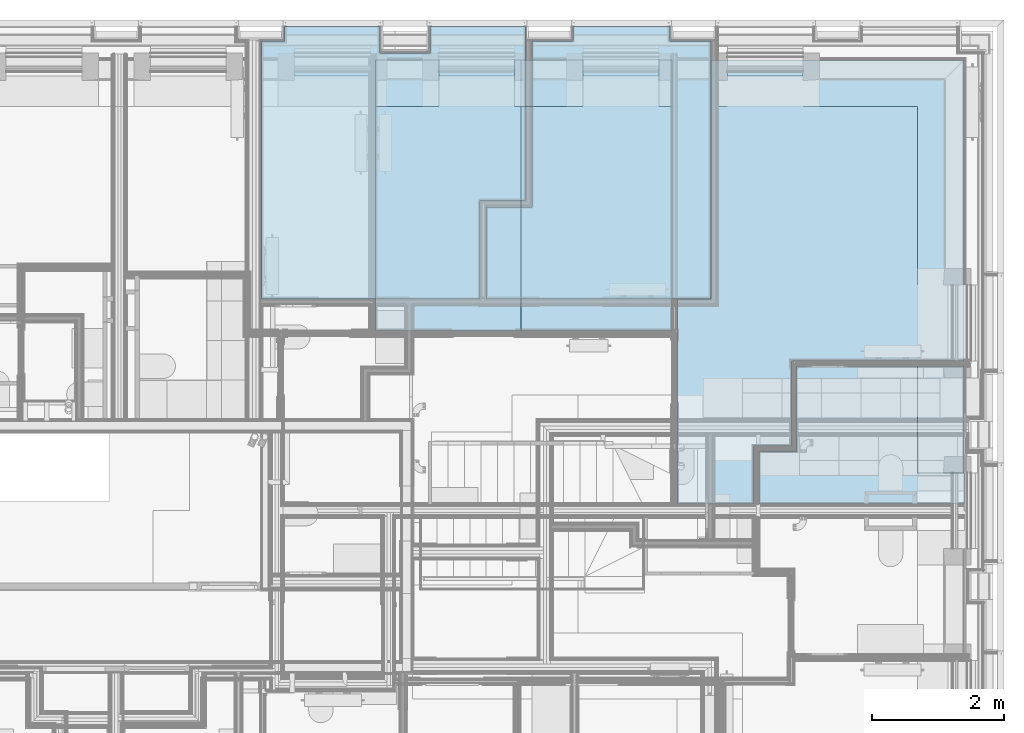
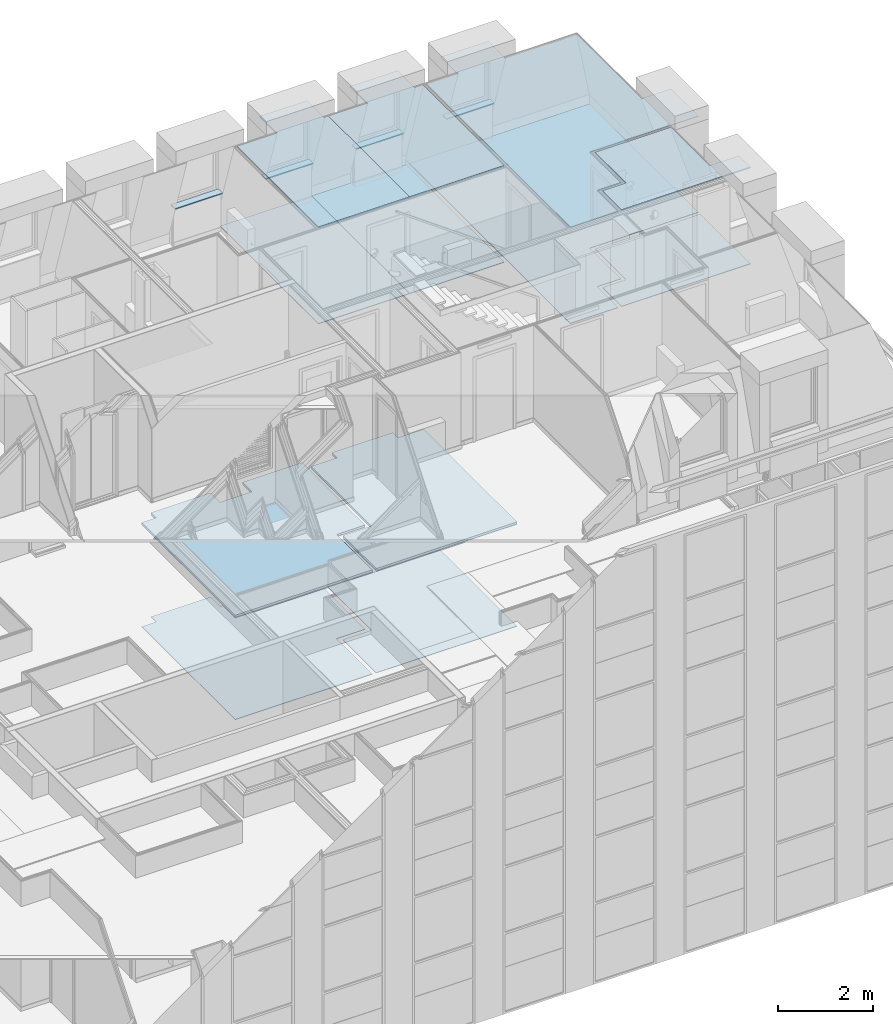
# One storey, part 80 of 169: 25 slabs.
"""IFC2X3 building model written with IfcOpenShell, lengths in metres."""

from ifc_helpers import new_model, entity, si_unit, converted_unit, derived_unit, money_unit, direction, frame, origin_with_axes, place, context, subcontext, project, spatial, faceted_brep, material, type_object, element, save


model = new_model("IFC2X3")

# Units and contexts
model_context = context("Model", 3, precision=1e-05, world=origin_with_axes(), true_north=direction((0.0, 1.0)))
body_context = subcontext(model_context, "Body", "Model", "MODEL_VIEW", scale=1.0)
ifc_project = project(units=[si_unit("LENGTHUNIT", "METRE"), si_unit("AREAUNIT", "SQUARE_METRE"), si_unit("VOLUMEUNIT", "CUBIC_METRE"), si_unit("ABSORBEDDOSEUNIT", "GRAY"), si_unit("AMOUNTOFSUBSTANCEUNIT", "MOLE"), si_unit("DOSEEQUIVALENTUNIT", "SIEVERT"), si_unit("ELECTRICCAPACITANCEUNIT", "FARAD"), si_unit("ELECTRICCHARGEUNIT", "COULOMB"), si_unit("ELECTRICCONDUCTANCEUNIT", "SIEMENS"), si_unit("ELECTRICCURRENTUNIT", "AMPERE"), si_unit("ELECTRICRESISTANCEUNIT", "OHM"), si_unit("ELECTRICVOLTAGEUNIT", "VOLT"), si_unit("ENERGYUNIT", "JOULE"), si_unit("FORCEUNIT", "NEWTON"), si_unit("FREQUENCYUNIT", "HERTZ"), si_unit("ILLUMINANCEUNIT", "LUX"), si_unit("INDUCTANCEUNIT", "HENRY"), si_unit("LUMINOUSFLUXUNIT", "LUMEN"), si_unit("LUMINOUSINTENSITYUNIT", "CANDELA"), si_unit("MAGNETICFLUXDENSITYUNIT", "TESLA"), si_unit("MAGNETICFLUXUNIT", "WEBER"), si_unit("MASSUNIT", "GRAM"), converted_unit("PLANEANGLEUNIT", "degree", entity("IfcReal", 0.0174532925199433), si_unit("PLANEANGLEUNIT", "RADIAN"), dimensions=[0, 0, 0, 0, 0, 0, 0]), si_unit("POWERUNIT", "WATT"), si_unit("PRESSUREUNIT", "PASCAL"), si_unit("RADIOACTIVITYUNIT", "BECQUEREL"), si_unit("SOLIDANGLEUNIT", "STERADIAN"), si_unit("THERMODYNAMICTEMPERATUREUNIT", "KELVIN"), si_unit("TIMEUNIT", "SECOND"), derived_unit("ACCELERATIONUNIT", [(si_unit("LENGTHUNIT", "METRE"), 1), (si_unit("TIMEUNIT", "SECOND"), -2)]), derived_unit("ANGULARVELOCITYUNIT", [(converted_unit("PLANEANGLEUNIT", "degree", entity("IfcReal", 0.0174532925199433), si_unit("PLANEANGLEUNIT", "RADIAN"), dimensions=[0, 0, 0, 0, 0, 0, 0]), 1), (si_unit("TIMEUNIT", "SECOND"), -1)]), derived_unit("CURVATUREUNIT", [(converted_unit("PLANEANGLEUNIT", "degree", entity("IfcReal", 0.0174532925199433), si_unit("PLANEANGLEUNIT", "RADIAN"), dimensions=[0, 0, 0, 0, 0, 0, 0]), 1), (si_unit("LENGTHUNIT", "METRE"), -1)]), derived_unit("DYNAMICVISCOSITYUNIT", [(si_unit("PRESSUREUNIT", "PASCAL"), 1), (si_unit("TIMEUNIT", "SECOND"), 1)]), derived_unit("HEATFLUXDENSITYUNIT", [(si_unit("POWERUNIT", "WATT"), 1), (si_unit("LENGTHUNIT", "METRE"), -2)]), derived_unit("HEATINGVALUEUNIT", [(si_unit("ENERGYUNIT", "JOULE"), 1), (si_unit("MASSUNIT", "GRAM"), -1)]), derived_unit("INTEGERCOUNTRATEUNIT", [(si_unit("TIMEUNIT", "SECOND"), -1)]), derived_unit("IONCONCENTRATIONUNIT", [(si_unit("MASSUNIT", "GRAM"), 1), (si_unit("VOLUMEUNIT", "CUBIC_METRE"), -1)]), derived_unit("ISOTHERMALMOISTURECAPACITYUNIT", [(si_unit("VOLUMEUNIT", "CUBIC_METRE"), 1), (si_unit("MASSUNIT", "GRAM"), -1)]), derived_unit("KINEMATICVISCOSITYUNIT", [(si_unit("AREAUNIT", "SQUARE_METRE"), 1), (si_unit("TIMEUNIT", "SECOND"), -1)]), derived_unit("LINEARFORCEUNIT", [(si_unit("FORCEUNIT", "NEWTON"), 1), (si_unit("LENGTHUNIT", "METRE"), -1)]), derived_unit("LINEARMOMENTUNIT", [(si_unit("FORCEUNIT", "NEWTON"), 1), (si_unit("LENGTHUNIT", "METRE"), -1)]), derived_unit("LINEARSTIFFNESSUNIT", [(si_unit("FORCEUNIT", "NEWTON"), 1), (si_unit("LENGTHUNIT", "METRE"), -1)]), derived_unit("LINEARVELOCITYUNIT", [(si_unit("LENGTHUNIT", "METRE"), 1), (si_unit("TIMEUNIT", "SECOND"), -1)]), derived_unit("LUMINOUSINTENSITYDISTRIBUTIONUNIT", [(si_unit("LUMINOUSINTENSITYUNIT", "CANDELA"), 1), (si_unit("LUMINOUSFLUXUNIT", "LUMEN"), -1)]), derived_unit("MASSDENSITYUNIT", [(si_unit("MASSUNIT", "GRAM"), 1), (si_unit("VOLUMEUNIT", "CUBIC_METRE"), -1)]), derived_unit("MASSFLOWRATEUNIT", [(si_unit("MASSUNIT", "GRAM"), 1), (si_unit("TIMEUNIT", "SECOND"), -1)]), derived_unit("MASSPERLENGTHUNIT", [(si_unit("MASSUNIT", "GRAM"), 1), (si_unit("LENGTHUNIT", "METRE"), -1)]), derived_unit("MODULUSOFELASTICITYUNIT", [(si_unit("FORCEUNIT", "NEWTON"), 1), (si_unit("AREAUNIT", "SQUARE_METRE"), -1)]), derived_unit("MODULUSOFLINEARSUBGRADEREACTIONUNIT", [(si_unit("FORCEUNIT", "NEWTON"), 1), (si_unit("LENGTHUNIT", "METRE"), -2)]), derived_unit("MODULUSOFROTATIONALSUBGRADEREACTIONUNIT", [(si_unit("FORCEUNIT", "NEWTON"), 1), (si_unit("LENGTHUNIT", "METRE"), 1)]), derived_unit("MODULUSOFSUBGRADEREACTIONUNIT", [(si_unit("FORCEUNIT", "NEWTON"), 1), (si_unit("VOLUMEUNIT", "CUBIC_METRE"), -1)]), derived_unit("MOISTUREDIFFUSIVITYUNIT", [(si_unit("VOLUMEUNIT", "CUBIC_METRE"), 1), (si_unit("TIMEUNIT", "SECOND"), -1)]), derived_unit("MOLECULARWEIGHTUNIT", [(si_unit("MASSUNIT", "GRAM"), 1), (si_unit("AMOUNTOFSUBSTANCEUNIT", "MOLE"), -1)]), derived_unit("PLANARFORCEUNIT", [(si_unit("FORCEUNIT", "NEWTON"), 1), (si_unit("LENGTHUNIT", "METRE"), -2)]), derived_unit("ROTATIONALFREQUENCYUNIT", [(si_unit("TIMEUNIT", "SECOND"), -1)]), derived_unit("ROTATIONALMASSUNIT", [(si_unit("MASSUNIT", "GRAM"), 1), (si_unit("LENGTHUNIT", "METRE"), 2)]), derived_unit("ROTATIONALSTIFFNESSUNIT", [(si_unit("FORCEUNIT", "NEWTON"), 1), (si_unit("LENGTHUNIT", "METRE"), 1), (converted_unit("PLANEANGLEUNIT", "degree", entity("IfcReal", 0.0174532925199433), si_unit("PLANEANGLEUNIT", "RADIAN"), dimensions=[0, 0, 0, 0, 0, 0, 0]), -1)]), derived_unit("SECTIONAREAINTEGRALUNIT", [(si_unit("LENGTHUNIT", "METRE"), 5)]), derived_unit("SECTIONMODULUSUNIT", [(si_unit("LENGTHUNIT", "METRE"), 3)]), derived_unit("SHEARMODULUSUNIT", [(si_unit("FORCEUNIT", "NEWTON"), 1), (si_unit("AREAUNIT", "SQUARE_METRE"), -1)]), derived_unit("SOUNDPOWERUNIT", [(si_unit("ENERGYUNIT", "JOULE"), 1), (si_unit("TIMEUNIT", "SECOND"), -1)]), derived_unit("SPECIFICHEATCAPACITYUNIT", [(si_unit("FORCEUNIT", "NEWTON"), 1), (si_unit("MASSUNIT", "GRAM"), -1), (si_unit("THERMODYNAMICTEMPERATUREUNIT", "KELVIN"), -1)]), derived_unit("TEMPERATUREGRADIENTUNIT", [(si_unit("THERMODYNAMICTEMPERATUREUNIT", "KELVIN"), 1), (si_unit("LENGTHUNIT", "METRE"), -1)]), derived_unit("THERMALADMITTANCEUNIT", [(si_unit("POWERUNIT", "WATT"), 1), (si_unit("AREAUNIT", "SQUARE_METRE"), -1), (si_unit("THERMODYNAMICTEMPERATUREUNIT", "KELVIN"), -1)]), derived_unit("THERMALCONDUCTANCEUNIT", [(si_unit("POWERUNIT", "WATT"), 1), (si_unit("LENGTHUNIT", "METRE"), -1), (si_unit("THERMODYNAMICTEMPERATUREUNIT", "KELVIN"), -1)]), derived_unit("THERMALEXPANSIONCOEFFICIENTUNIT", [(si_unit("THERMODYNAMICTEMPERATUREUNIT", "KELVIN"), -1)]), derived_unit("THERMALRESISTANCEUNIT", [(si_unit("AREAUNIT", "SQUARE_METRE"), 1), (si_unit("POWERUNIT", "WATT"), -1)]), derived_unit("THERMALTRANSMITTANCEUNIT", [(si_unit("POWERUNIT", "WATT"), 1), (si_unit("AREAUNIT", "SQUARE_METRE"), -1), (si_unit("THERMODYNAMICTEMPERATUREUNIT", "KELVIN"), -1)]), derived_unit("TORQUEUNIT", [(si_unit("FORCEUNIT", "NEWTON"), 1), (si_unit("LENGTHUNIT", "METRE"), 1)]), derived_unit("VAPORPERMEABILITYUNIT", [(si_unit("MASSUNIT", "GRAM"), 1), (si_unit("TIMEUNIT", "SECOND"), -1)]), derived_unit("VOLUMETRICFLOWRATEUNIT", [(si_unit("VOLUMEUNIT", "CUBIC_METRE"), 1), (si_unit("TIMEUNIT", "SECOND"), -1)]), derived_unit("WARPINGCONSTANTUNIT", [(si_unit("LENGTHUNIT", "METRE"), 6)]), derived_unit("WARPINGMOMENTUNIT", [(si_unit("FORCEUNIT", "NEWTON"), 1), (si_unit("LENGTHUNIT", "METRE"), 2)]), money_unit("GBP")], contexts=[model_context])

# Site, building, storey
site_placement = place(None, origin_with_axes())
site = spatial("IfcSite", under=ifc_project, at=site_placement, Name="Site", CompositionType="ELEMENT")
building_placement = place(site_placement, origin_with_axes())
building = spatial("IfcBuilding", under=site, at=building_placement, Name="Building01", CompositionType="ELEMENT")
storey_placement = place(building_placement, frame((0.0, 0.0, 5.15), z_axis=(0.0, 0.0, 1.0), x_axis=(1.0, 0.0, 0.0)))
storey = spatial("IfcBuildingStorey", under=building, at=storey_placement, Name="1F", CompositionType="ELEMENT", Elevation=5.15)

# Slabs
ifc_material_1 = material(Name="A_BSUK_Carpet-Pile")
slab_type_1 = type_object("IfcSlabType", Name="A-FloorsSlabs A_BSUK_Slabs", PredefinedType="FLOOR")
placement = place(storey_placement, frame((0.0, 0.0, -5.15), z_axis=(0.0, 0.0, 1.0), x_axis=(1.0, 0.0, 0.0)))
element("IfcSlab", 1, at=placement, inside=storey, type_object=slab_type_1, material=ifc_material_1, Name="A-FloorsSlabs A_BSUK_Slabs", ObjectType="CompoundSlabLeaf", context=body_context, shape_type="Brep", body=[
    faceted_brep([(15.708132, 10.665, 5.153), (15.708132, 10.665, 5.165), (15.708132, 14.582, 5.165), (15.708132, 14.582, 5.153), (19.025284, 10.665, 5.153), (19.025284, 10.665, 5.165), (19.025284, 12.159378, 5.153), (19.025284, 12.159378, 5.165), (19.715, 12.159378, 5.153), (19.715, 12.159378, 5.165), (19.715, 14.8, 5.153), (19.715, 14.8, 5.165), (18.268, 14.8, 5.153), (18.268, 14.8, 5.165), (18.268, 14.402, 5.153), (18.268, 14.402, 5.165), (17.502, 14.402, 5.153), (17.502, 14.402, 5.165), (17.502, 14.8, 5.153), (17.502, 14.8, 5.165), (16.055, 14.8, 5.153), (16.055, 14.8, 5.165), (16.055, 14.582, 5.153), (16.055, 14.582, 5.165)], [[[0, 1, 2, 3]], [[4, 5, 1, 0]], [[6, 7, 5, 4]], [[8, 9, 7, 6]], [[10, 11, 9, 8]], [[12, 13, 11, 10]], [[14, 15, 13, 12]], [[16, 17, 15, 14]], [[18, 19, 17, 16]], [[20, 21, 19, 18]], [[22, 23, 21, 20]], [[3, 2, 23, 22]], [[1, 5, 7, 9, 11, 13, 15, 17, 19, 21, 23, 2]], [[3, 22, 20, 18, 16, 14, 12, 10, 8, 6, 4, 0]]]),
])
element("IfcSlab", 2, at=placement, inside=storey, type_object=slab_type_1, material=ifc_material_1, Name="A-FloorsSlabs A_BSUK_Slabs", ObjectType="CompoundSlabLeaf", context=body_context, shape_type="Brep", body=[
    faceted_brep([(19.81, 12.064378, 5.153), (19.81, 12.064378, 5.165), (19.81, 14.582, 5.165), (19.81, 14.582, 5.153), (19.120284, 12.064378, 5.153), (19.120284, 12.064378, 5.165), (19.120284, 10.665, 5.153), (19.120284, 10.665, 5.165), (22.53, 10.665, 5.153), (22.53, 10.665, 5.165), (22.53, 14.582, 5.153), (22.53, 14.582, 5.165), (21.905, 14.582, 5.153), (21.905, 14.582, 5.165), (21.905, 14.8, 5.153), (21.905, 14.8, 5.165), (20.435, 14.8, 5.153), (20.435, 14.8, 5.165), (20.435, 14.582, 5.153), (20.435, 14.582, 5.165)], [[[0, 1, 2, 3]], [[4, 5, 1, 0]], [[6, 7, 5, 4]], [[8, 9, 7, 6]], [[10, 11, 9, 8]], [[12, 13, 11, 10]], [[14, 15, 13, 12]], [[16, 17, 15, 14]], [[18, 19, 17, 16]], [[3, 2, 19, 18]], [[1, 5, 7, 9, 11, 13, 15, 17, 19, 2]], [[3, 18, 16, 14, 12, 10, 8, 6, 4, 0]]]),
])
ifc_material_2 = material(Name="A_BSUK_CeilingSoffitFinishes_Suspended")
element("IfcSlab", 3, at=placement, inside=storey, type_object=slab_type_1, material=ifc_material_2, Name="A-FloorsSlabs A_BSUK_Slabs", ObjectType="CompoundSlabLeaf", context=body_context, shape_type="Brep", body=[
    faceted_brep([(15.708132, 10.665, 7.765), (15.708132, 10.665, 7.78), (15.708132, 14.582, 7.78), (15.708132, 14.582, 7.765), (19.025284, 10.665, 7.765), (19.025284, 10.665, 7.78), (19.025284, 12.159378, 7.765), (19.025284, 12.159378, 7.78), (19.715, 12.159378, 7.765), (19.715, 12.159378, 7.78), (19.715, 14.8, 7.765), (19.715, 14.8, 7.78), (18.268, 14.8, 7.765), (18.268, 14.8, 7.78), (18.268, 14.402, 7.765), (18.268, 14.402, 7.78), (17.502, 14.402, 7.765), (17.502, 14.402, 7.78), (17.502, 14.8, 7.765), (17.502, 14.8, 7.78), (16.055, 14.8, 7.765), (16.055, 14.8, 7.78), (16.055, 14.582, 7.765), (16.055, 14.582, 7.78)], [[[0, 1, 2, 3]], [[4, 5, 1, 0]], [[6, 7, 5, 4]], [[8, 9, 7, 6]], [[10, 11, 9, 8]], [[12, 13, 11, 10]], [[14, 15, 13, 12]], [[16, 17, 15, 14]], [[18, 19, 17, 16]], [[20, 21, 19, 18]], [[22, 23, 21, 20]], [[3, 2, 23, 22]], [[1, 5, 7, 9, 11, 13, 15, 17, 19, 21, 23, 2]], [[3, 22, 20, 18, 16, 14, 12, 10, 8, 6, 4, 0]]]),
])
element("IfcSlab", 4, at=placement, inside=storey, type_object=slab_type_1, material=ifc_material_2, Name="A-FloorsSlabs A_BSUK_Slabs", ObjectType="CompoundSlabLeaf", context=body_context, shape_type="Brep", body=[
    faceted_brep([(19.81, 12.064378, 7.765), (19.81, 12.064378, 7.78), (19.81, 14.582, 7.78), (19.81, 14.582, 7.765), (19.120284, 12.064378, 7.765), (19.120284, 12.064378, 7.78), (19.120284, 10.665, 7.765), (19.120284, 10.665, 7.78), (22.53, 10.665, 7.765), (22.53, 10.665, 7.78), (22.53, 14.582, 7.765), (22.53, 14.582, 7.78), (21.905, 14.582, 7.765), (21.905, 14.582, 7.78), (21.905, 14.8, 7.765), (21.905, 14.8, 7.78), (20.435, 14.8, 7.765), (20.435, 14.8, 7.78), (20.435, 14.582, 7.765), (20.435, 14.582, 7.78)], [[[0, 1, 2, 3]], [[4, 5, 1, 0]], [[6, 7, 5, 4]], [[8, 9, 7, 6]], [[10, 11, 9, 8]], [[12, 13, 11, 10]], [[14, 15, 13, 12]], [[16, 17, 15, 14]], [[18, 19, 17, 16]], [[3, 2, 19, 18]], [[1, 5, 7, 9, 11, 13, 15, 17, 19, 2]], [[3, 18, 16, 14, 12, 10, 8, 6, 4, 0]]]),
])
element("IfcSlab", 5, at=placement, inside=storey, type_object=slab_type_1, material=ifc_material_2, Name="A-FloorsSlabs A_BSUK_Slabs", ObjectType="CompoundSlabLeaf", context=body_context, shape_type="Brep", body=[
    faceted_brep([(17.439976, 10.179939, 17.423), (17.439976, 10.179939, 17.438), (17.439976, 13.587598, 17.438), (17.439976, 13.587598, 17.423), (19.649976, 10.179939, 17.423), (19.649976, 10.179939, 17.438), (19.649976, 13.587598, 17.423), (19.649976, 13.587598, 17.438), (19.549976, 13.587598, 17.423), (19.549976, 13.587598, 17.438), (19.549976, 14.300061, 17.423), (19.549976, 14.300061, 17.438), (18.400024, 14.300061, 17.423), (18.400024, 14.300061, 17.438), (18.400024, 13.587598, 17.423), (18.400024, 13.587598, 17.438)], [[[0, 1, 2, 3]], [[4, 5, 1, 0]], [[6, 7, 5, 4]], [[8, 9, 7, 6]], [[10, 11, 9, 8]], [[12, 13, 11, 10]], [[14, 15, 13, 12]], [[3, 2, 15, 14]], [[1, 5, 7, 9, 11, 13, 15, 2]], [[3, 14, 12, 10, 8, 6, 4, 0]]]),
])
element("IfcSlab", 6, at=placement, inside=storey, type_object=slab_type_1, material=ifc_material_2, Name="A-FloorsSlabs A_BSUK_Slabs", ObjectType="CompoundSlabLeaf", context=body_context, shape_type="Brep", body=[
    faceted_brep([(19.649976, 10.179939, 17.423), (19.649976, 10.179939, 17.438), (19.649976, 13.587598, 17.438), (19.649976, 13.587598, 17.423), (21.939976, 10.179939, 17.423), (21.939976, 10.179939, 17.438), (21.939976, 13.587598, 17.423), (21.939976, 13.587598, 17.438), (21.739976, 13.587598, 17.423), (21.739976, 13.587598, 17.438), (21.739976, 14.300061, 17.423), (21.739976, 14.300061, 17.438), (20.590024, 14.300061, 17.423), (20.590024, 14.300061, 17.438), (20.590024, 13.587598, 17.423), (20.590024, 13.587598, 17.438)], [[[0, 1, 2, 3]], [[4, 5, 1, 0]], [[6, 7, 5, 4]], [[8, 9, 7, 6]], [[10, 11, 9, 8]], [[12, 13, 11, 10]], [[14, 15, 13, 12]], [[3, 2, 15, 14]], [[1, 5, 7, 9, 11, 13, 15, 2]], [[3, 14, 12, 10, 8, 6, 4, 0]]]),
])
element("IfcSlab", 7, at=placement, inside=storey, type_object=slab_type_1, material=ifc_material_2, Name="A-FloorsSlabs A_BSUK_Slabs", ObjectType="CompoundSlabLeaf", context=body_context, shape_type="Brep", body=[
    faceted_brep([(22.019976, 7.549915, 17.423), (22.019976, 7.549915, 17.438), (22.019976, 13.587598, 17.438), (22.019976, 13.587598, 17.423), (23.178821, 7.549915, 17.423), (23.178821, 7.549915, 17.438), (23.178821, 8.429915, 17.423), (23.178821, 8.429915, 17.438), (23.75, 8.429915, 17.423), (23.75, 8.429915, 17.438), (23.75, 9.724915, 17.423), (23.75, 9.724915, 17.438), (26.380061, 9.724915, 17.423), (26.380061, 9.724915, 17.438), (26.380061, 10.874915, 17.423), (26.380061, 10.874915, 17.438), (25.667598, 10.874915, 17.423), (25.667598, 10.874915, 17.438), (25.667598, 13.587598, 17.423), (25.667598, 13.587598, 17.438), (23.930024, 13.587598, 17.423), (23.930024, 13.587598, 17.438), (23.930024, 14.300061, 17.423), (23.930024, 14.300061, 17.438), (22.780024, 14.300061, 17.423), (22.780024, 14.300061, 17.438), (22.780024, 13.587598, 17.423), (22.780024, 13.587598, 17.438)], [[[0, 1, 2, 3]], [[4, 5, 1, 0]], [[6, 7, 5, 4]], [[8, 9, 7, 6]], [[10, 11, 9, 8]], [[12, 13, 11, 10]], [[14, 15, 13, 12]], [[16, 17, 15, 14]], [[18, 19, 17, 16]], [[20, 21, 19, 18]], [[22, 23, 21, 20]], [[24, 25, 23, 22]], [[26, 27, 25, 24]], [[3, 2, 27, 26]], [[1, 5, 7, 9, 11, 13, 15, 17, 19, 21, 23, 25, 27, 2]], [[3, 26, 24, 22, 20, 18, 16, 14, 12, 10, 8, 6, 4, 0]]]),
])
element("IfcSlab", 8, at=placement, inside=storey, type_object=slab_type_1, material=ifc_material_2, Name="A-FloorsSlabs A_BSUK_Slabs", ObjectType="CompoundSlabLeaf", context=body_context, shape_type="Brep", body=[
    faceted_brep([(23.83, 8.349915, 17.423), (23.83, 8.349915, 17.438), (23.83, 9.645024, 17.438), (23.83, 9.645024, 17.423), (23.258821, 8.349915, 17.423), (23.258821, 8.349915, 17.438), (23.258821, 7.549915, 17.423), (23.258821, 7.549915, 17.438), (26.380061, 7.549915, 17.423), (26.380061, 7.549915, 17.438), (26.380061, 8.024915, 17.423), (26.380061, 8.024915, 17.438), (25.667598, 8.024915, 17.423), (25.667598, 8.024915, 17.438), (25.667598, 9.645085, 17.423), (25.667598, 9.645085, 17.438)], [[[0, 1, 2, 3]], [[4, 5, 1, 0]], [[6, 7, 5, 4]], [[8, 9, 7, 6]], [[10, 11, 9, 8]], [[12, 13, 11, 10]], [[14, 15, 13, 12]], [[3, 2, 15, 14]], [[1, 5, 7, 9, 11, 13, 15, 2]], [[3, 14, 12, 10, 8, 6, 4, 0]]]),
])
ifc_material_3 = material(Name="A_BSUK_ExpandedPolystyreneBoards")
element("IfcSlab", 9, at=placement, inside=storey, type_object=slab_type_1, material=ifc_material_3, Name="A-FloorsSlabs A_BSUK_Slabs", ObjectType="CompoundSlabLeaf", context=body_context, shape_type="Brep", body=[
    faceted_brep([(17.439976, 10.179939, 14.965), (17.439976, 10.179939, 14.968), (17.439976, 14.2962, 14.968), (17.439976, 14.2962, 14.965), (19.649976, 10.179939, 14.965), (19.649976, 10.179939, 14.968), (19.649976, 14.2962, 14.965), (19.649976, 14.2962, 14.968), (19.549976, 14.2962, 14.965), (19.549976, 14.2962, 14.968), (18.400024, 14.2962, 14.965), (18.400024, 14.2962, 14.968)], [[[0, 1, 2, 3]], [[4, 5, 1, 0]], [[6, 7, 5, 4]], [[8, 9, 7, 6]], [[10, 11, 9, 8]], [[3, 2, 11, 10]], [[1, 5, 7, 9, 11, 2]], [[3, 10, 8, 6, 4, 0]]]),
])
element("IfcSlab", 10, at=placement, inside=storey, type_object=slab_type_1, material=ifc_material_3, Name="A-FloorsSlabs A_BSUK_Slabs", ObjectType="CompoundSlabLeaf", context=body_context, shape_type="Brep", body=[
    faceted_brep([(19.649976, 10.179939, 14.965), (19.649976, 10.179939, 14.968), (19.649976, 14.2962, 14.968), (19.649976, 14.2962, 14.965), (21.939976, 10.179939, 14.965), (21.939976, 10.179939, 14.968), (21.939976, 14.2962, 14.965), (21.939976, 14.2962, 14.968), (21.739976, 14.2962, 14.965), (21.739976, 14.2962, 14.968), (20.590024, 14.2962, 14.965), (20.590024, 14.2962, 14.968)], [[[0, 1, 2, 3]], [[4, 5, 1, 0]], [[6, 7, 5, 4]], [[8, 9, 7, 6]], [[10, 11, 9, 8]], [[3, 2, 11, 10]], [[1, 5, 7, 9, 11, 2]], [[3, 10, 8, 6, 4, 0]]]),
])
element("IfcSlab", 11, at=placement, inside=storey, type_object=slab_type_1, material=ifc_material_3, Name="A-FloorsSlabs A_BSUK_Slabs", ObjectType="CompoundSlabLeaf", context=body_context, shape_type="Brep", body=[
    faceted_brep([(22.019976, 7.549915, 14.965), (22.019976, 7.549915, 14.968), (22.019976, 14.2962, 14.968), (22.019976, 14.2962, 14.965), (23.178821, 7.549915, 14.965), (23.178821, 7.549915, 14.968), (23.178821, 8.429915, 14.965), (23.178821, 8.429915, 14.968), (23.75, 8.429915, 14.965), (23.75, 8.429915, 14.968), (23.75, 9.724915, 14.965), (23.75, 9.724915, 14.968), (26.3762, 9.724915, 14.965), (26.3762, 9.724915, 14.968), (26.3762, 10.874915, 14.965), (26.3762, 10.874915, 14.968), (26.3762, 14.2962, 14.965), (26.3762, 14.2962, 14.968), (23.930024, 14.2962, 14.965), (23.930024, 14.2962, 14.968), (22.780024, 14.2962, 14.965), (22.780024, 14.2962, 14.968)], [[[0, 1, 2, 3]], [[4, 5, 1, 0]], [[6, 7, 5, 4]], [[8, 9, 7, 6]], [[10, 11, 9, 8]], [[12, 13, 11, 10]], [[14, 15, 13, 12]], [[16, 17, 15, 14]], [[18, 19, 17, 16]], [[20, 21, 19, 18]], [[3, 2, 21, 20]], [[1, 5, 7, 9, 11, 13, 15, 17, 19, 21, 2]], [[3, 20, 18, 16, 14, 12, 10, 8, 6, 4, 0]]]),
])
element("IfcSlab", 12, at=placement, inside=storey, type_object=slab_type_1, material=ifc_material_3, Name="A-FloorsSlabs A_BSUK_Slabs", ObjectType="CompoundSlabLeaf", context=body_context, shape_type="Brep", body=[
    faceted_brep([(23.83, 8.349915, 14.965), (23.83, 8.349915, 14.968), (23.83, 9.645024, 14.968), (23.83, 9.645024, 14.965), (23.258821, 8.349915, 14.965), (23.258821, 8.349915, 14.968), (23.258821, 7.549915, 14.965), (23.258821, 7.549915, 14.968), (26.3762, 7.549915, 14.965), (26.3762, 7.549915, 14.968), (26.3762, 8.024915, 14.965), (26.3762, 8.024915, 14.968), (26.3762, 9.645108, 14.965), (26.3762, 9.645108, 14.968)], [[[0, 1, 2, 3]], [[4, 5, 1, 0]], [[6, 7, 5, 4]], [[8, 9, 7, 6]], [[10, 11, 9, 8]], [[12, 13, 11, 10]], [[3, 2, 13, 12]], [[1, 5, 7, 9, 11, 13, 2]], [[3, 12, 10, 8, 6, 4, 0]]]),
])
ifc_material_4 = material(Name="A_BSUK_Timber_Miscellaneous")
element("IfcSlab", 13, at=placement, inside=storey, type_object=slab_type_1, material=ifc_material_4, Name="A-FloorsSlabs A_BSUK_Slabs", ObjectType="CompoundSlabLeaf", context=body_context, shape_type="Brep", body=[
    faceted_brep([(23.930024, 14.224661, 15.98), (23.930024, 14.224661, 16.005), (23.930024, 14.050061, 16.005), (23.930024, 14.050061, 15.98), (22.780024, 14.224661, 15.98), (22.780024, 14.224661, 16.005), (22.780024, 14.050062, 15.98), (22.780024, 14.050062, 16.005)], [[[0, 1, 2, 3]], [[4, 5, 1, 0]], [[6, 7, 5, 4]], [[3, 2, 7, 6]], [[1, 5, 7, 2]], [[3, 6, 4, 0]]]),
])
element("IfcSlab", 14, at=placement, inside=storey, type_object=slab_type_1, material=ifc_material_4, Name="A-FloorsSlabs A_BSUK_Slabs", ObjectType="CompoundSlabLeaf", context=body_context, shape_type="Brep", body=[
    faceted_brep([(21.740024, 14.224661, 15.98), (21.740024, 14.224661, 16.005), (21.740024, 14.050061, 16.005), (21.740024, 14.050061, 15.98), (20.590024, 14.224661, 15.98), (20.590024, 14.224661, 16.005), (20.590024, 14.050062, 15.98), (20.590024, 14.050062, 16.005)], [[[0, 1, 2, 3]], [[4, 5, 1, 0]], [[6, 7, 5, 4]], [[3, 2, 7, 6]], [[1, 5, 7, 2]], [[3, 6, 4, 0]]]),
])
element("IfcSlab", 15, at=placement, inside=storey, type_object=slab_type_1, material=ifc_material_4, Name="A-FloorsSlabs A_BSUK_Slabs", ObjectType="CompoundSlabLeaf", context=body_context, shape_type="Brep", body=[
    faceted_brep([(19.550024, 14.224661, 15.98), (19.550024, 14.224661, 16.005), (19.550024, 14.050061, 16.005), (19.550024, 14.050061, 15.98), (18.400024, 14.224661, 15.98), (18.400024, 14.224661, 16.005), (18.400024, 14.050062, 15.98), (18.400024, 14.050062, 16.005)], [[[0, 1, 2, 3]], [[4, 5, 1, 0]], [[6, 7, 5, 4]], [[3, 2, 7, 6]], [[1, 5, 7, 2]], [[3, 6, 4, 0]]]),
])
element("IfcSlab", 16, at=placement, inside=storey, type_object=slab_type_1, material=ifc_material_4, Name="A-FloorsSlabs A_BSUK_Slabs", ObjectType="CompoundSlabLeaf", context=body_context, shape_type="Brep", body=[
    faceted_brep([(17.360024, 14.224661, 15.98), (17.360024, 14.224661, 16.005), (17.360024, 14.050061, 16.005), (17.360024, 14.050061, 15.98), (16.210024, 14.224661, 15.98), (16.210024, 14.224661, 16.005), (16.210024, 14.050062, 15.98), (16.210024, 14.050062, 16.005)], [[[0, 1, 2, 3]], [[4, 5, 1, 0]], [[6, 7, 5, 4]], [[3, 2, 7, 6]], [[1, 5, 7, 2]], [[3, 6, 4, 0]]]),
])
element("IfcSlab", 17, at=placement, inside=storey, type_object=slab_type_1, material=ifc_material_2, Name="A-FloorsSlabs A_BSUK_Slabs", ObjectType="CompoundSlabLeaf", context=body_context, shape_type="Brep", body=[
    faceted_brep([(17.439976, 10.179939, 17.438), (17.439976, 10.179939, 17.453), (17.439976, 13.587598, 17.453), (17.439976, 13.587598, 17.438), (19.649976, 10.179939, 17.438), (19.649976, 10.179939, 17.453), (19.649976, 13.587598, 17.438), (19.649976, 13.587598, 17.453), (19.549976, 13.587598, 17.438), (19.549976, 13.587598, 17.453), (19.549976, 14.300061, 17.438), (19.549976, 14.300061, 17.453), (18.400024, 14.300061, 17.438), (18.400024, 14.300061, 17.453), (18.400024, 13.587598, 17.438), (18.400024, 13.587598, 17.453)], [[[0, 1, 2, 3]], [[4, 5, 1, 0]], [[6, 7, 5, 4]], [[8, 9, 7, 6]], [[10, 11, 9, 8]], [[12, 13, 11, 10]], [[14, 15, 13, 12]], [[3, 2, 15, 14]], [[1, 5, 7, 9, 11, 13, 15, 2]], [[3, 14, 12, 10, 8, 6, 4, 0]]]),
])
element("IfcSlab", 18, at=placement, inside=storey, type_object=slab_type_1, material=ifc_material_2, Name="A-FloorsSlabs A_BSUK_Slabs", ObjectType="CompoundSlabLeaf", context=body_context, shape_type="Brep", body=[
    faceted_brep([(19.649976, 10.179939, 17.438), (19.649976, 10.179939, 17.453), (19.649976, 13.587598, 17.453), (19.649976, 13.587598, 17.438), (21.939976, 10.179939, 17.438), (21.939976, 10.179939, 17.453), (21.939976, 13.587598, 17.438), (21.939976, 13.587598, 17.453), (21.739976, 13.587598, 17.438), (21.739976, 13.587598, 17.453), (21.739976, 14.300061, 17.438), (21.739976, 14.300061, 17.453), (20.590024, 14.300061, 17.438), (20.590024, 14.300061, 17.453), (20.590024, 13.587598, 17.438), (20.590024, 13.587598, 17.453)], [[[0, 1, 2, 3]], [[4, 5, 1, 0]], [[6, 7, 5, 4]], [[8, 9, 7, 6]], [[10, 11, 9, 8]], [[12, 13, 11, 10]], [[14, 15, 13, 12]], [[3, 2, 15, 14]], [[1, 5, 7, 9, 11, 13, 15, 2]], [[3, 14, 12, 10, 8, 6, 4, 0]]]),
])
element("IfcSlab", 19, at=placement, inside=storey, type_object=slab_type_1, material=ifc_material_2, Name="A-FloorsSlabs A_BSUK_Slabs", ObjectType="CompoundSlabLeaf", context=body_context, shape_type="Brep", body=[
    faceted_brep([(23.83, 8.349915, 17.438), (23.83, 8.349915, 17.453), (23.83, 9.645024, 17.453), (23.83, 9.645024, 17.438), (23.258821, 8.349915, 17.438), (23.258821, 8.349915, 17.453), (23.258821, 7.549915, 17.438), (23.258821, 7.549915, 17.453), (26.380061, 7.549915, 17.438), (26.380061, 7.549915, 17.453), (26.380061, 8.024915, 17.438), (26.380061, 8.024915, 17.453), (25.667598, 8.024915, 17.438), (25.667598, 8.024915, 17.453), (25.667598, 9.645085, 17.438), (25.667598, 9.645085, 17.453)], [[[0, 1, 2, 3]], [[4, 5, 1, 0]], [[6, 7, 5, 4]], [[8, 9, 7, 6]], [[10, 11, 9, 8]], [[12, 13, 11, 10]], [[14, 15, 13, 12]], [[3, 2, 15, 14]], [[1, 5, 7, 9, 11, 13, 15, 2]], [[3, 14, 12, 10, 8, 6, 4, 0]]]),
])
ifc_material_5 = material(Name="A_BSUK_Ceramic_FloorTiles")
slab_type_2 = type_object("IfcSlabType", Name="A-Finishes A_BSUK_Ceramic_FloorTiles", PredefinedType="FLOOR")
element("IfcSlab", 20, at=placement, inside=storey, type_object=slab_type_2, material=ifc_material_5, Name="A-Finishes A_BSUK_Ceramic_FloorTiles", ObjectType="CompoundSlabLeaf", context=body_context, shape_type="Brep", body=[
    faceted_brep([(23.83, 8.349915, 14.968), (23.83, 8.349915, 14.98), (23.83, 9.645024, 14.98), (23.83, 9.645024, 14.968), (23.258821, 8.349915, 14.968), (23.258821, 8.349915, 14.98), (23.258821, 7.549915, 14.968), (23.258821, 7.549915, 14.98), (26.3762, 7.549915, 14.968), (26.3762, 7.549915, 14.98), (26.3762, 8.024915, 14.968), (26.3762, 8.024915, 14.98), (26.3762, 9.645108, 14.968), (26.3762, 9.645108, 14.98)], [[[0, 1, 2, 3]], [[4, 5, 1, 0]], [[6, 7, 5, 4]], [[8, 9, 7, 6]], [[10, 11, 9, 8]], [[12, 13, 11, 10]], [[3, 2, 13, 12]], [[1, 5, 7, 9, 11, 13, 2]], [[3, 12, 10, 8, 6, 4, 0]]]),
])
slab_type_3 = type_object("IfcSlabType", Name="A-FloorsSlabs A_BSUK_ExpandedPolystyreneBoards", PredefinedType="FLOOR")
element("IfcSlab", 21, at=placement, inside=storey, type_object=slab_type_3, material=ifc_material_3, Name="A-FloorsSlabs A_BSUK_ExpandedPolystyreneBoards", ObjectType="CompoundSlabLeaf", context=body_context, shape_type="Brep", body=[
    faceted_brep([(15.708132, 10.665, 7.78), (15.708132, 10.665, 7.83), (15.708132, 14.582, 7.83), (15.708132, 14.582, 7.78), (19.025284, 10.665, 7.78), (19.025284, 10.665, 7.83), (19.025284, 12.159378, 7.78), (19.025284, 12.159378, 7.83), (19.715, 12.159378, 7.78), (19.715, 12.159378, 7.83), (19.715, 14.8, 7.78), (19.715, 14.8, 7.83), (18.268, 14.8, 7.78), (18.268, 14.8, 7.83), (18.268, 14.402, 7.78), (18.268, 14.402, 7.83), (17.502, 14.402, 7.78), (17.502, 14.402, 7.83), (17.502, 14.8, 7.78), (17.502, 14.8, 7.83), (16.055, 14.8, 7.78), (16.055, 14.8, 7.83), (16.055, 14.582, 7.78), (16.055, 14.582, 7.83)], [[[0, 1, 2, 3]], [[4, 5, 1, 0]], [[6, 7, 5, 4]], [[8, 9, 7, 6]], [[10, 11, 9, 8]], [[12, 13, 11, 10]], [[14, 15, 13, 12]], [[16, 17, 15, 14]], [[18, 19, 17, 16]], [[20, 21, 19, 18]], [[22, 23, 21, 20]], [[3, 2, 23, 22]], [[1, 5, 7, 9, 11, 13, 15, 17, 19, 21, 23, 2]], [[3, 22, 20, 18, 16, 14, 12, 10, 8, 6, 4, 0]]]),
])
element("IfcSlab", 22, at=placement, inside=storey, type_object=slab_type_3, material=ifc_material_3, Name="A-FloorsSlabs A_BSUK_ExpandedPolystyreneBoards", ObjectType="CompoundSlabLeaf", context=body_context, shape_type="Brep", body=[
    faceted_brep([(19.81, 12.064378, 7.78), (19.81, 12.064378, 7.83), (19.81, 14.582, 7.83), (19.81, 14.582, 7.78), (19.120284, 12.064378, 7.78), (19.120284, 12.064378, 7.83), (19.120284, 10.665, 7.78), (19.120284, 10.665, 7.83), (22.53, 10.665, 7.78), (22.53, 10.665, 7.83), (22.53, 14.582, 7.78), (22.53, 14.582, 7.83), (21.905, 14.582, 7.78), (21.905, 14.582, 7.83), (21.905, 14.8, 7.78), (21.905, 14.8, 7.83), (20.435, 14.8, 7.78), (20.435, 14.8, 7.83), (20.435, 14.582, 7.78), (20.435, 14.582, 7.83)], [[[0, 1, 2, 3]], [[4, 5, 1, 0]], [[6, 7, 5, 4]], [[8, 9, 7, 6]], [[10, 11, 9, 8]], [[12, 13, 11, 10]], [[14, 15, 13, 12]], [[16, 17, 15, 14]], [[18, 19, 17, 16]], [[3, 2, 19, 18]], [[1, 5, 7, 9, 11, 13, 15, 17, 19, 2]], [[3, 18, 16, 14, 12, 10, 8, 6, 4, 0]]]),
])
slab_type_4 = type_object("IfcSlabType", Name="A-Finishes A_BSUK_Carpet-Pile", PredefinedType="FLOOR")
element("IfcSlab", 23, at=placement, inside=storey, type_object=slab_type_4, material=ifc_material_1, Name="A-Finishes A_BSUK_Carpet-Pile", ObjectType="CompoundSlabLeaf", context=body_context, shape_type="Brep", body=[
    faceted_brep([(17.439976, 10.179939, 14.968), (17.439976, 10.179939, 14.98), (17.439976, 14.2962, 14.98), (17.439976, 14.2962, 14.968), (19.649976, 10.179939, 14.968), (19.649976, 10.179939, 14.98), (19.649976, 14.2962, 14.968), (19.649976, 14.2962, 14.98), (19.549976, 14.2962, 14.968), (19.549976, 14.2962, 14.98), (18.400024, 14.2962, 14.968), (18.400024, 14.2962, 14.98)], [[[0, 1, 2, 3]], [[4, 5, 1, 0]], [[6, 7, 5, 4]], [[8, 9, 7, 6]], [[10, 11, 9, 8]], [[3, 2, 11, 10]], [[1, 5, 7, 9, 11, 2]], [[3, 10, 8, 6, 4, 0]]]),
])
element("IfcSlab", 24, at=placement, inside=storey, type_object=slab_type_4, material=ifc_material_1, Name="A-Finishes A_BSUK_Carpet-Pile", ObjectType="CompoundSlabLeaf", context=body_context, shape_type="Brep", body=[
    faceted_brep([(19.649976, 10.179939, 14.968), (19.649976, 10.179939, 14.98), (19.649976, 14.2962, 14.98), (19.649976, 14.2962, 14.968), (21.939976, 10.179939, 14.968), (21.939976, 10.179939, 14.98), (21.939976, 14.2962, 14.968), (21.939976, 14.2962, 14.98), (21.739976, 14.2962, 14.968), (21.739976, 14.2962, 14.98), (20.590024, 14.2962, 14.968), (20.590024, 14.2962, 14.98)], [[[0, 1, 2, 3]], [[4, 5, 1, 0]], [[6, 7, 5, 4]], [[8, 9, 7, 6]], [[10, 11, 9, 8]], [[3, 2, 11, 10]], [[1, 5, 7, 9, 11, 2]], [[3, 10, 8, 6, 4, 0]]]),
])
element("IfcSlab", 25, at=placement, inside=storey, type_object=slab_type_4, material=ifc_material_1, Name="A-Finishes A_BSUK_Carpet-Pile", ObjectType="CompoundSlabLeaf", context=body_context, shape_type="Brep", body=[
    faceted_brep([(22.019976, 7.549915, 14.968), (22.019976, 7.549915, 14.98), (22.019976, 14.2962, 14.98), (22.019976, 14.2962, 14.968), (23.178821, 7.549915, 14.968), (23.178821, 7.549915, 14.98), (23.178821, 8.429915, 14.968), (23.178821, 8.429915, 14.98), (23.75, 8.429915, 14.968), (23.75, 8.429915, 14.98), (23.75, 9.724915, 14.968), (23.75, 9.724915, 14.98), (26.3762, 9.724915, 14.968), (26.3762, 9.724915, 14.98), (26.3762, 10.874915, 14.968), (26.3762, 10.874915, 14.98), (26.3762, 14.2962, 14.968), (26.3762, 14.2962, 14.98), (23.930024, 14.2962, 14.968), (23.930024, 14.2962, 14.98), (22.780024, 14.2962, 14.968), (22.780024, 14.2962, 14.98)], [[[0, 1, 2, 3]], [[4, 5, 1, 0]], [[6, 7, 5, 4]], [[8, 9, 7, 6]], [[10, 11, 9, 8]], [[12, 13, 11, 10]], [[14, 15, 13, 12]], [[16, 17, 15, 14]], [[18, 19, 17, 16]], [[20, 21, 19, 18]], [[3, 2, 21, 20]], [[1, 5, 7, 9, 11, 13, 15, 17, 19, 21, 2]], [[3, 20, 18, 16, 14, 12, 10, 8, 6, 4, 0]]]),
])

save(model, "model.ifc")
